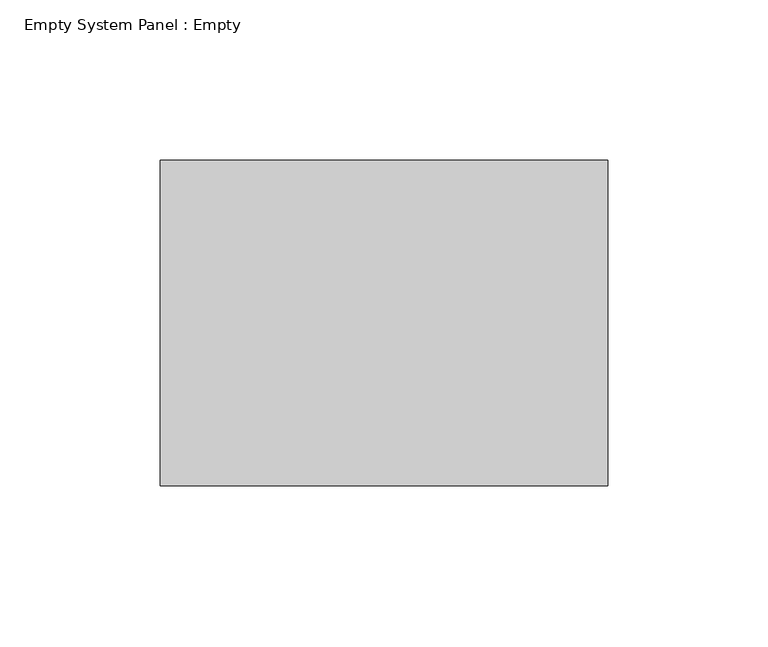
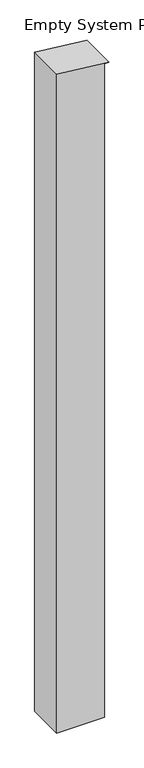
"""IFC4 building model written with IfcOpenShell, lengths in millimetres: plate geometry, Empty System Panel : Empty."""

from ifc_helpers import new_model, si_unit, frame, origin, place, context, project, spatial, polyline, outline, extrude, source, transform, mapped, element, save


def empty_system_panel_empty_ea010d79(model_context):
    return source(origin(), model_context, "Body", "SweptSolid", [
        extrude(outline(polyline([(0.0, -69.85), (0.0, 57.15), (1837.9366159, 57.15), (1837.9366159, 69.85), (1853.5618059, -69.85), (0.0, -69.85)])), frame((0.0, -50.8, 0.0), z_axis=(0.0, 1.0, 0.0), x_axis=(0.0, 0.0, 1.0)), (0.0, 0.0, 1.0), 101.6),
    ])


if __name__ == "__main__":
    model = new_model("IFC4")
    model_context = context("Model", 3, world=origin())
    ifc_project = project(units=[si_unit("LENGTHUNIT", "METRE", prefix="MILLI")], contexts=[model_context])
    site = spatial("IfcSite", under=ifc_project)
    building = spatial("IfcBuilding", under=site)
    placement = place(None, origin())
    empty_system_panel_empty_shape = empty_system_panel_empty_ea010d79(model_context)
    element("IfcPlate", 1, ObjectType="Empty System Panel : Empty", at=placement, inside=building, context=model_context, shape_type="MappedRepresentation", body=[
        mapped(empty_system_panel_empty_shape, transform((0.0, 0.0, 0.0), x_axis=(1.0, 0.0, 0.0), y_axis=(0.0, 1.0, 0.0), z_axis=(0.0, 0.0, 1.0))),
    ])
    save(model, "model.ifc")
